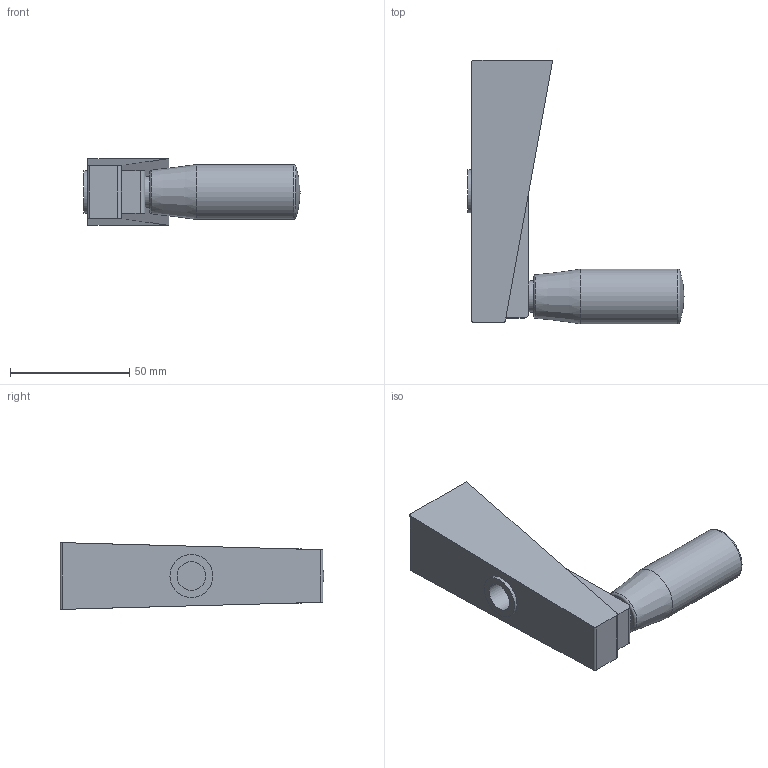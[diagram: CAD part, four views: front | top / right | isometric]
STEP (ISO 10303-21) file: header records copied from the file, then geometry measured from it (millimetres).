
FILE_DESCRIPTION( ( 'STEP AP203' ), '1' );
FILE_NAME( 'C:/Temp/Ganter_Step_05_03_2020/data/1_3/gn_510/Cranked handle GN 510-110-B12.stp', '2020-03-05T10:45:19', ( 'License CC BY-ND 4.0' ), ( 'CADENAS' ), ' ', 'PARTsolutions', ' ' );
FILE_SCHEMA( ( 'CONFIG_CONTROL_DESIGN' ) );
Length unit declared in the file: millimetre
Products named in the file (1): _Cranked handle GN 510-110-B12
Bounding box: 90.5 x 110.5 x 28 mm (x, y, z)
Volume: 94375.8 mm3; surface area: 18199.7 mm2
Topology: 1 solids, 1 shells, 28 faces, 66 edges, 43 vertices
Faces by surface type: plane 16, cylinder 8, torus 2, sphere 1, cone 1
Full cylindrical faces by diameter (mm): 12 x1, 13 x1, 18 x1, 23 x1
Entity records: 795 total; most frequent: DIRECTION 133, CARTESIAN_POINT 127, ORIENTED_EDGE 112, EDGE_CURVE 56, AXIS2_PLACEMENT_3D 48, VERTEX_POINT 42, EDGE_LOOP 39, LINE 37
